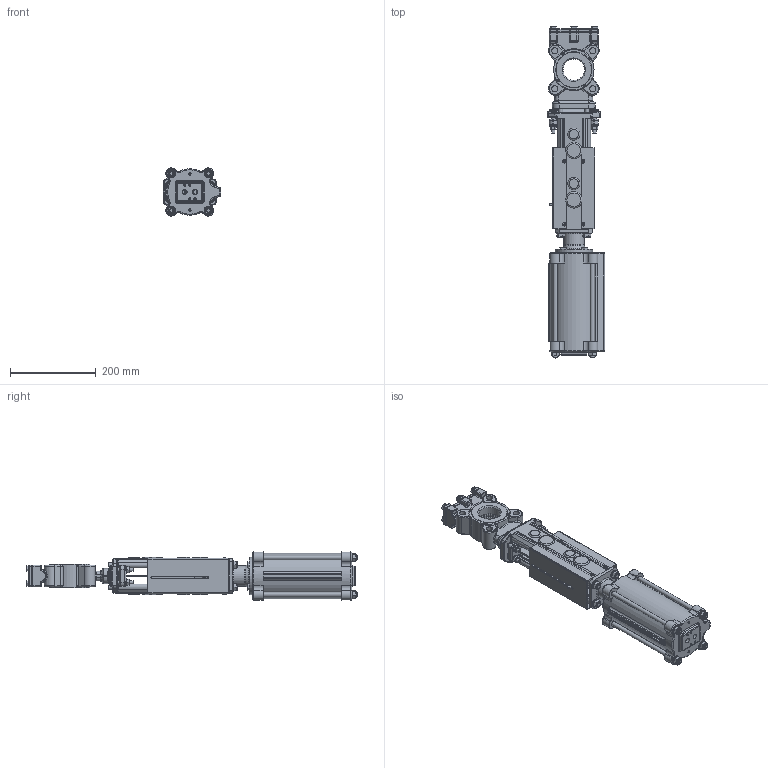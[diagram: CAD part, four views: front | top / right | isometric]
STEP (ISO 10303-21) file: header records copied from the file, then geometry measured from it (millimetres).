
FILE_DESCRIPTION(/* description */ (''),/* implementation_level */ '2;1');
FILE_NAME(/* name */ 'F:\Emir\3D-block special\SLV\SLV DN 50-PN10-FRSC100-115.stp',/* time_stamp */ '2018-07-10T16:42:53+02:00',/* author */ ('emimus'),/* organization */ (''),/* preprocessor_version */ 'ST-DEVELOPER v17',/* originating_system */ 'Autodesk Inventor 2018',/* authorisation */ '');
FILE_SCHEMA (('CONFIG_CONTROL_DESIGN'));
Products named in the file (1): SLV DN 50-PN10-FRSC100-115
Bounding box: 134 x 772.9 x 112.17 mm (x, y, z)
Volume: 2357690.3 mm3; surface area: 869659.3 mm2
Topology: 3 solids, 3 shells, 2700 faces, 6737 edges, 4156 vertices
Faces by surface type: plane 944, cylinder 749, cone 330, torus 324, bspline 243, sphere 110
Full cylindrical faces by diameter (mm): 3 x10, 3.242 x8, 4 x6, 4.134 x4, 4.2 x12, 4.5 x2, 4.917 x5, 6 x4, 6.4 x2, 7 x1, 8 x19, 8.4 x4, 9 x6, 10 x20, 10.106 x1, 10.5 x8, 11 x8, 11.445 x2, 11.63 x10, 12 x2, 14 x5, 15 x6, 15.5 x1, 16 x11, 18 x4, 20 x9, 20.15 x2, 22 x1, 24 x5, 26 x1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
Entity records: 116663 total; most frequent: CARTESIAN_POINT 53227, DIRECTION 13738, ORIENTED_EDGE 13328, EDGE_CURVE 6664, AXIS2_PLACEMENT_3D 5770, VERTEX_POINT 4156, CIRCLE 3084, EDGE_LOOP 2968
